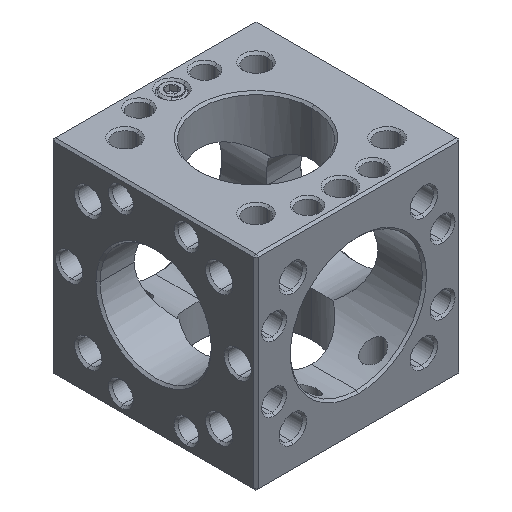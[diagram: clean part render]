
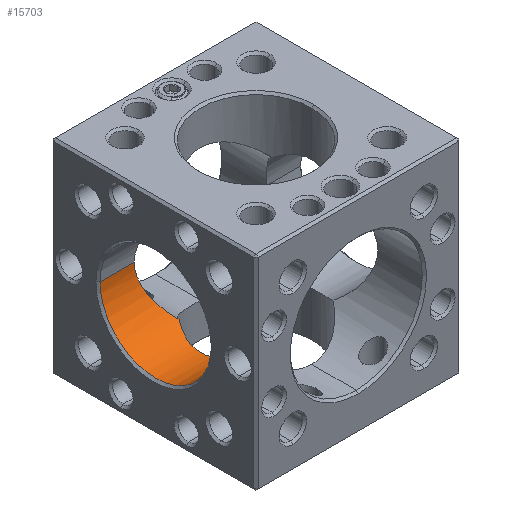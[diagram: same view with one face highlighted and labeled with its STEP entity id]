
A CAD part, isometric view. The second image highlights one B-rep face of the part: STEP entity #15703.
In plain terms, the highlighted cylindrical face has radius 6.795 mm (diameter 13.589 mm), a partial arc.
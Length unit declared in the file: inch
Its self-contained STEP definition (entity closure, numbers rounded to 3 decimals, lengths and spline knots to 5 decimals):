
#108 = CARTESIAN_POINT ( 'NONE',  ( -0.41472, 0.24174, -0.018 ) ) ;
#502 = CYLINDRICAL_SURFACE ( 'NONE', #15921, 0.2675 ) ;
#540 = ORIENTED_EDGE ( 'NONE', *, *, #17040, .T. ) ;
#597 = CARTESIAN_POINT ( 'NONE',  ( -0.1965, 0.17512, -0.19495 ) ) ;
#1171 = CARTESIAN_POINT ( 'NONE',  ( -0.20022, -0.02576, -0.2855 ) ) ;
#1239 = CARTESIAN_POINT ( 'NONE',  ( -0.22553, -0.26345, -0.14122 ) ) ;
#1771 = VERTEX_POINT ( 'NONE', #12115 ) ;
#1990 = CARTESIAN_POINT ( 'NONE',  ( -0.21193, 0.19498, -0.16948 ) ) ;
#2630 = CARTESIAN_POINT ( 'NONE',  ( -0.20198, -0.23395, -0.18729 ) ) ;
#3063 = AXIS2_PLACEMENT_3D ( 'NONE', #3086, #12580, #4427 ) ;
#3086 = CARTESIAN_POINT ( 'NONE',  ( -0.41472, -0.02576, -0.018 ) ) ;
#3153 = VECTOR ( 'NONE', #7907, 39.37008 ) ;
#3348 = CARTESIAN_POINT ( 'NONE',  ( -0.22547, 0.21185, -0.14136 ) ) ;
#3568 = LINE ( 'NONE', #10625, #3153 ) ;
#3961 = CARTESIAN_POINT ( 'NONE',  ( -0.16854, -0.18867, -0.23119 ) ) ;
#4123 = CIRCLE ( 'NONE', #3063, 0.2675 ) ;
#4164 = CARTESIAN_POINT ( 'NONE',  ( -0.15723, 0.11968, -0.24251 ) ) ;
#4427 = DIRECTION ( 'NONE',  ( 0., 1., 0. ) ) ;
#4584 = CARTESIAN_POINT ( 'NONE',  ( -0.20022, -0.02576, -0.2855 ) ) ;
#4599 = CARTESIAN_POINT ( 'NONE',  ( -0.41472, -0.29326, -0.018 ) ) ;
#4649 = CARTESIAN_POINT ( 'NONE',  ( -0.18549, -0.12758, -0.27077 ) ) ;
#4711 = CARTESIAN_POINT ( 'NONE',  ( -0.23672, 0.22558, -0.11027 ) ) ;
#4841 = B_SPLINE_CURVE_WITH_KNOTS ( 'NONE', 3,
 ( #14497, #10384, #14807, #6667, #16156, #8042, #17516, #9407, #1239, #10761, #2630, #12117, #3961, #13489 ),
 .UNSPECIFIED., .F., .F.,
 ( 4, 2, 2, 2, 2, 2, 4 ),
 ( 0.02275, 0.02365, 0.02455, 0.02545, 0.02635, 0.02815, 0.02995 ),
 .UNSPECIFIED. ) ;
#5086 =( BOUNDED_CURVE ( )  B_SPLINE_CURVE ( 3, ( #4584, #10067, #4649, #14160 ),
 .UNSPECIFIED., .F., .F. ) 
 B_SPLINE_CURVE_WITH_KNOTS ( ( 4, 4 ),
 ( 3.14159, 3.71644 ),
 .UNSPECIFIED. ) 
 CURVE ( )  GEOMETRIC_REPRESENTATION_ITEM ( )  RATIONAL_B_SPLINE_CURVE ( ( 1., 0.973, 0.973, 1. ) ) 
 REPRESENTATION_ITEM ( '' )  );
#5179 = LINE ( 'NONE', #17318, #5594 ) ;
#5199 = VERTEX_POINT ( 'NONE', #16712 ) ;
#5356 = VERTEX_POINT ( 'NONE', #6270 ) ;
#5421 =( BOUNDED_CURVE ( )  B_SPLINE_CURVE ( 3, ( #4164, #12320, #13695, #5548 ),
 .UNSPECIFIED., .F., .F. ) 
 B_SPLINE_CURVE_WITH_KNOTS ( ( 4, 4 ),
 ( 2.56675, 3.14159 ),
 .UNSPECIFIED. ) 
 CURVE ( )  GEOMETRIC_REPRESENTATION_ITEM ( )  RATIONAL_B_SPLINE_CURVE ( ( 1., 0.973, 0.973, 1. ) ) 
 REPRESENTATION_ITEM ( '' )  );
#5430 = EDGE_CURVE ( 'NONE', #5467, #5356, #3568, .T. ) ;
#5467 = VERTEX_POINT ( 'NONE', #4599 ) ;
#5548 = CARTESIAN_POINT ( 'NONE',  ( -0.20022, -0.02576, -0.2855 ) ) ;
#5594 = VECTOR ( 'NONE', #7832, 39.37008 ) ;
#6081 = CARTESIAN_POINT ( 'NONE',  ( -0.24489, 0.2354, -0.07704 ) ) ;
#6270 = CARTESIAN_POINT ( 'NONE',  ( -0.25022, -0.29326, -0.018 ) ) ;
#6660 = ORIENTED_EDGE ( 'NONE', *, *, #16417, .T. ) ;
#6667 = CARTESIAN_POINT ( 'NONE',  ( -0.2469, -0.28932, -0.06526 ) ) ;
#6738 = B_SPLINE_CURVE_WITH_KNOTS ( 'NONE', 3,
 ( #14162, #12798, #8790, #597, #10124, #1990, #11493, #3348, #12850, #4711, #14225, #6081, #15602, #7454, #16935, #8843 ),
 .UNSPECIFIED., .F., .F.,
 ( 4, 2, 2, 2, 2, 2, 2, 4 ),
 ( 0.03825, 0.04005, 0.04095, 0.04185, 0.04275, 0.04365, 0.04455, 0.04545 ),
 .UNSPECIFIED. ) ;
#6818 = ORIENTED_EDGE ( 'NONE', *, *, #8222, .T. ) ;
#6819 = VERTEX_POINT ( 'NONE', #12085 ) ;
#7295 = ORIENTED_EDGE ( 'NONE', *, *, #5430, .T. ) ;
#7454 = CARTESIAN_POINT ( 'NONE',  ( -0.24953, 0.24092, -0.04201 ) ) ;
#7832 = DIRECTION ( 'NONE',  ( 1., 0., 0. ) ) ;
#7907 = DIRECTION ( 'NONE',  ( 1., 0., 0. ) ) ;
#8042 = CARTESIAN_POINT ( 'NONE',  ( -0.23985, -0.28087, -0.09932 ) ) ;
#8222 = EDGE_CURVE ( 'NONE', #1771, #5199, #6738, .T. ) ;
#8535 = EDGE_CURVE ( 'NONE', #1771, #10783, #5421, .T. ) ;
#8790 = CARTESIAN_POINT ( 'NONE',  ( -0.18013, 0.15327, -0.21787 ) ) ;
#8843 = CARTESIAN_POINT ( 'NONE',  ( -0.25022, 0.24174, -0.018 ) ) ;
#9407 = CARTESIAN_POINT ( 'NONE',  ( -0.22957, -0.2684, -0.13118 ) ) ;
#10067 = CARTESIAN_POINT ( 'NONE',  ( -0.20022, -0.07774, -0.2855 ) ) ;
#10124 = CARTESIAN_POINT ( 'NONE',  ( -0.20185, 0.18208, -0.18674 ) ) ;
#10372 = VERTEX_POINT ( 'NONE', #108 ) ;
#10384 = CARTESIAN_POINT ( 'NONE',  ( -0.25022, -0.29326, -0.02997 ) ) ;
#10421 = CARTESIAN_POINT ( 'NONE',  ( -0.42472, -0.02576, -0.018 ) ) ;
#10539 = ORIENTED_EDGE ( 'NONE', *, *, #8535, .F. ) ;
#10618 = ORIENTED_EDGE ( 'NONE', *, *, #17521, .F. ) ;
#10625 = CARTESIAN_POINT ( 'NONE',  ( -0.42472, -0.29326, -0.018 ) ) ;
#10761 = CARTESIAN_POINT ( 'NONE',  ( -0.21219, -0.24689, -0.17017 ) ) ;
#10783 = VERTEX_POINT ( 'NONE', #1171 ) ;
#11493 = CARTESIAN_POINT ( 'NONE',  ( -0.21668, 0.20094, -0.16042 ) ) ;
#11645 = EDGE_LOOP ( 'NONE', ( #6660, #7295, #540, #11767, #10539, #6818, #10618 ) ) ;
#11767 = ORIENTED_EDGE ( 'NONE', *, *, #15350, .F. ) ;
#12085 = CARTESIAN_POINT ( 'NONE',  ( -0.15723, -0.1712, -0.24251 ) ) ;
#12115 = CARTESIAN_POINT ( 'NONE',  ( -0.15723, 0.11968, -0.24251 ) ) ;
#12117 = CARTESIAN_POINT ( 'NONE',  ( -0.18023, -0.20494, -0.21774 ) ) ;
#12320 = CARTESIAN_POINT ( 'NONE',  ( -0.18549, 0.07606, -0.27077 ) ) ;
#12580 = DIRECTION ( 'NONE',  ( -1., 0., 0. ) ) ;
#12798 = CARTESIAN_POINT ( 'NONE',  ( -0.16864, 0.13729, -0.23109 ) ) ;
#12850 = CARTESIAN_POINT ( 'NONE',  ( -0.22951, 0.2168, -0.13135 ) ) ;
#13136 = DIRECTION ( 'NONE',  ( 0., 1., 0. ) ) ;
#13489 = CARTESIAN_POINT ( 'NONE',  ( -0.15723, -0.1712, -0.24251 ) ) ;
#13695 = CARTESIAN_POINT ( 'NONE',  ( -0.20022, 0.02621, -0.2855 ) ) ;
#14160 = CARTESIAN_POINT ( 'NONE',  ( -0.15723, -0.1712, -0.24251 ) ) ;
#14162 = CARTESIAN_POINT ( 'NONE',  ( -0.15723, 0.11968, -0.24251 ) ) ;
#14225 = CARTESIAN_POINT ( 'NONE',  ( -0.23983, 0.22932, -0.09937 ) ) ;
#14497 = CARTESIAN_POINT ( 'NONE',  ( -0.25022, -0.29326, -0.018 ) ) ;
#14807 = CARTESIAN_POINT ( 'NONE',  ( -0.24954, -0.29245, -0.04192 ) ) ;
#15017 = FACE_OUTER_BOUND ( 'NONE', #11645, .T. ) ;
#15350 = EDGE_CURVE ( 'NONE', #10783, #6819, #5086, .T. ) ;
#15602 = CARTESIAN_POINT ( 'NONE',  ( -0.24686, 0.23774, -0.06558 ) ) ;
#15703 = ADVANCED_FACE ( 'NONE', ( #15017 ), #502, .F. ) ;
#15882 = DIRECTION ( 'NONE',  ( 1., 0., 0. ) ) ;
#15921 = AXIS2_PLACEMENT_3D ( 'NONE', #10421, #15882, #13136 ) ;
#16156 = CARTESIAN_POINT ( 'NONE',  ( -0.24495, -0.287, -0.07674 ) ) ;
#16417 = EDGE_CURVE ( 'NONE', #10372, #5467, #4123, .T. ) ;
#16712 = CARTESIAN_POINT ( 'NONE',  ( -0.25022, 0.24174, -0.018 ) ) ;
#16935 = CARTESIAN_POINT ( 'NONE',  ( -0.25022, 0.24174, -0.03001 ) ) ;
#17040 = EDGE_CURVE ( 'NONE', #5356, #6819, #4841, .T. ) ;
#17318 = CARTESIAN_POINT ( 'NONE',  ( -0.42472, 0.24174, -0.018 ) ) ;
#17516 = CARTESIAN_POINT ( 'NONE',  ( -0.23672, -0.2771, -0.11026 ) ) ;
#17521 = EDGE_CURVE ( 'NONE', #10372, #5199, #5179, .T. ) ;
